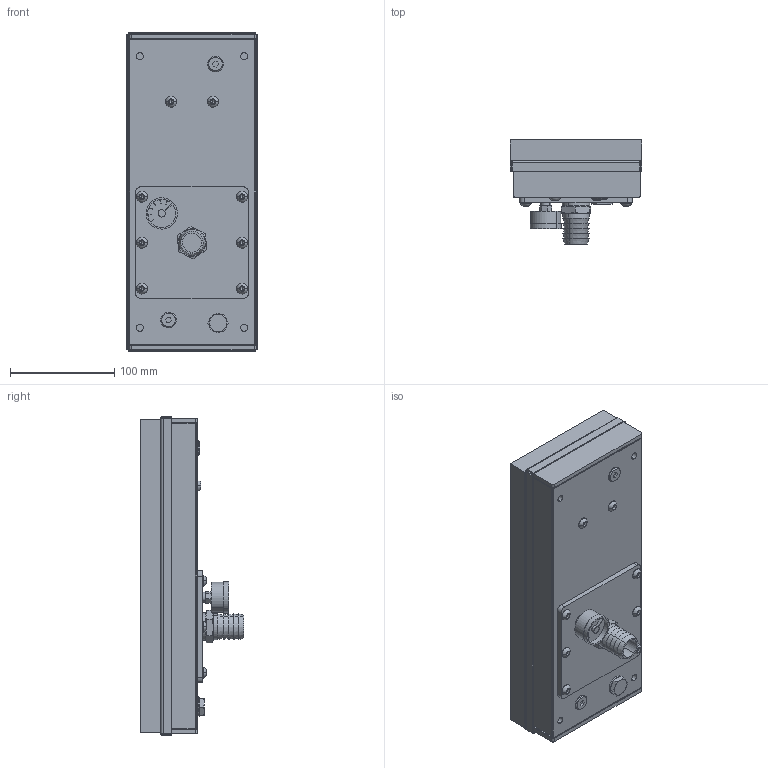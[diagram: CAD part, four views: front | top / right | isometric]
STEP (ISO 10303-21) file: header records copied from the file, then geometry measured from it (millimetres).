
FILE_DESCRIPTION (( 'STEP AP214' ), '1' );
FILE_NAME ('3-9-23593.STEP', '2012-08-30T07:47:13', ( 'cad' ), ( 'Microsoft' ), 'SwSTEP 2.0', 'SolidWorks 2012', '' );
FILE_SCHEMA (( 'AUTOMOTIVE_DESIGN' ));
Length unit declared in the file: millimetre
Products named in the file (1): 3-9-23593
Bounding box: 126 x 99.5 x 306 mm (x, y, z)
Volume: 1929750.9 mm3; surface area: 200936.4 mm2
Topology: 1 solids, 1 shells, 549 faces, 1265 edges, 792 vertices
Faces by surface type: plane 329, cylinder 166, cone 38, sphere 16
Entity records: 19443 total; most frequent: DIRECTION 2803, CARTESIAN_POINT 2795, ORIENTED_EDGE 2498, EDGE_CURVE 1249, AXIS2_PLACEMENT_3D 1032, VERTEX_POINT 792, LINE 739, VECTOR 739
